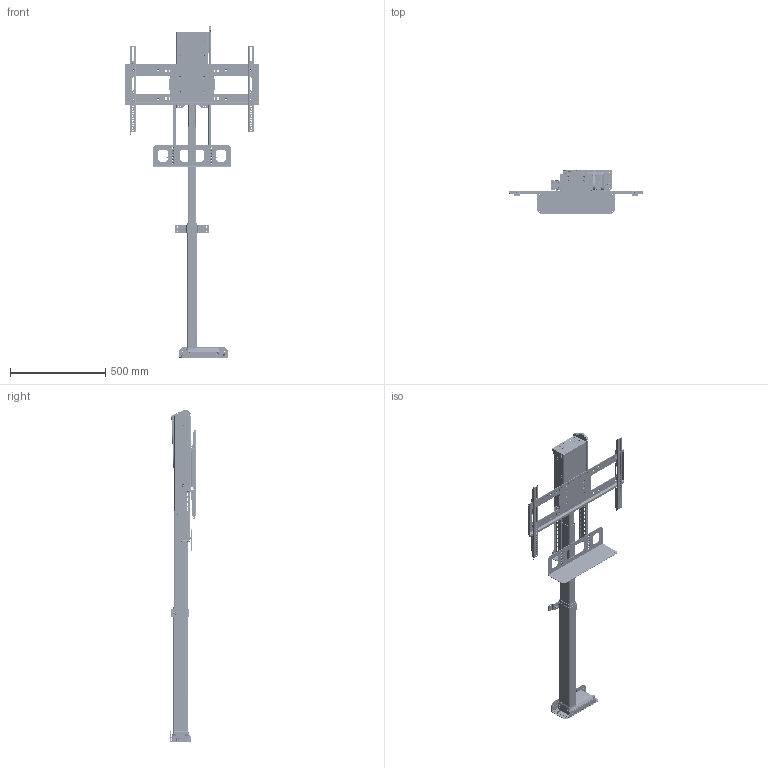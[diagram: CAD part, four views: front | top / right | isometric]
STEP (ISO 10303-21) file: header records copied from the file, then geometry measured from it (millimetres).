
FILE_DESCRIPTION(/* description */ ('STEP AP242','CAx-IF Rec.Pracs.---Representation and Presentation of Product Manufacturing Information (PMI)---4.0---2014-10-13','CAx-IF Rec.Pracs.---3D Tessellated Geometry---0.4---2014-09-14','2;1'),/* implementation_level */ '2;1');
FILE_NAME(/* name */ '63f8faa2155145463c3984d0',/* time_stamp */ '2023-02-24T17:57:59+00:00',/* author */ (''),/* organization */ (''),/* preprocessor_version */ 'ST-DEVELOPER v18.102',/* originating_system */ ' ',/* authorisation */ ' ');
FILE_SCHEMA (('AP242_MANAGED_MODEL_BASED_3D_ENGINEERING_MIM_LF { 1 0 10303 442 1 1 4 }'));
Products named in the file (48): L-65/s; Hex socket countersunk head screw M6x1 x 16; Hex socket countersunk head screw M6x1 x 12; Socket button head screw M6x1 x 12; Socket button head screw M6x1 x 8; ULS-NX-037 -- ULS HTG Adapter Plate; WDS8151-215; OLD_ULS-NX-024 - ULS Hinged Top Guide; ULS-NX-011 - ULS ACCESSORY MOUNTING BRACKET SPACER <2>; ULS-NX-011 - UL ACCESSORY MOUNTING BRACKET SPACER; PRODUCT_NAME_1; ULS Accessories <1>; 1/4in Spacer; ULS-NX-010 - ULS ACCESSORY MOUNTING BRACKET W PEMS <2>; PEM CLS-M6-2  ; ULS-NX-010 - UL ACCESSORY MOUNTING BRACKET; NEX-LM-013 - CENTER CHANNEL MOUNT - REV B; ULS-NX-010 - ULS ACCESSORY MOUNTING BRACKET W PEMS <1>; ULS-NX-108 - ULS SCREEN SUPPORT WELDMENT <1>; PEM CLS-M6-1  ; F-M6-3 M6 PEM NUT; ULS-NX-008 - UL SCREEN SUPPORT SHELL; ULS-NX-009 - ULS SCREEN SUPPORT TOP PLATE <1>; ULS-NX-009 - UL SCREEN SUPPORT TOP PLATE; SBP & VMB <1>; PZ Pan head screw M5x0.80 x 25; ULS-NX-017 - UL SCREEN BACK PLATE; ULS-NX-118 - UL VMB WELDMENT <2>; Socket button head cap screw #6-32 x 0.188; VMB Washer; ULS-NX-019 - UL LEVEL ADJUSTMENT PLATE; PEM BSO-632-10  ZI; 90107A012; ULS-NX-018 - UL VERICAL MOUNTING BAR; ULS-NX-020 - UL SCREEN LOCK; ULS-NX-118 - UL VMB WELDMENT <1>; L-65 Lower Sub Assembly <1>; ULS-NX-002 - ULS QUICK RELEASE LC MOUNT; ULS-NX-004 - ULS COLUMN CLAMP; ULS-NX-001 - ULS QUICK RELEASE BASE MOUNT W/ PEMS <1>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
Assembly tree (140 placements, depth 4):
  L-65/s
    Hex socket countersunk head screw M6x1 x 16  x4
    Hex socket countersunk head screw M6x1 x 12  x10
    Socket button head screw M6x1 x 12  x8
    Socket button head screw M6x1 x 8  x4
    ULS-NX-037 -- ULS HTG Adapter Plate
    WDS8151-215  x4
    OLD_ULS-NX-024 - ULS Hinged Top Guide
    ULS-NX-011 - ULS ACCESSORY MOUNTING BRACKET SPACER <2>
      ULS-NX-011 - UL ACCESSORY MOUNTING BRACKET SPACER
      PRODUCT_NAME_1  x2
    ULS Accessories <1>
      1/4in Spacer  x2
      ULS-NX-010 - ULS ACCESSORY MOUNTING BRACKET W PEMS <2>
        PEM CLS-M6-2    x4
        ULS-NX-010 - UL ACCESSORY MOUNTING BRACKET
      NEX-LM-013 - CENTER CHANNEL MOUNT - REV B
      ULS-NX-010 - ULS ACCESSORY MOUNTING BRACKET W PEMS <1>
        PEM CLS-M6-2    x4
        ULS-NX-010 - UL ACCESSORY MOUNTING BRACKET
    ULS-NX-108 - ULS SCREEN SUPPORT WELDMENT <1>
      PEM CLS-M6-1    x32
      F-M6-3 M6 PEM NUT
      ULS-NX-008 - UL SCREEN SUPPORT SHELL
      ULS-NX-009 - ULS SCREEN SUPPORT TOP PLATE <1>
        PEM CLS-M6-1    x4
        ULS-NX-009 - UL SCREEN SUPPORT TOP PLATE
    SBP & VMB <1>
      PZ Pan head screw M5x0.80 x 25  x2
      ULS-NX-017 - UL SCREEN BACK PLATE
      ULS-NX-118 - UL VMB WELDMENT <2>
        Socket button head cap screw #6-32 x 0.188  x2
        VMB Washer  x4
        ULS-NX-019 - UL LEVEL ADJUSTMENT PLATE
        PEM BSO-632-10  ZI  x2
        90107A012  x2
        ULS-NX-018 - UL VERICAL MOUNTING BAR
        ULS-NX-020 - UL SCREEN LOCK
      ULS-NX-118 - UL VMB WELDMENT <1>
        VMB Washer  x4
        Socket button head cap screw #6-32 x 0.188  x2
        PEM BSO-632-10  ZI  x2
        ULS-NX-020 - UL SCREEN LOCK
        ULS-NX-018 - UL VERICAL MOUNTING BAR
        90107A012  x2
        ULS-NX-019 - UL LEVEL ADJUSTMENT PLATE
    L-65 Lower Sub Assembly <1>
      ULS-NX-002 - ULS QUICK RELEASE LC MOUNT
      ULS-NX-004 - ULS COLUMN CLAMP
      ULS-NX-001 - ULS QUICK RELEASE BASE MOUNT W/ PEMS <1>
        PEM FHS-M6-12    x2
        ULS-NX-001 - ULS QUICK RELEASE BASE MOUNT
      ULS-NX-022 - ULS REAR SUPPORT <1>
        ULS-NX-022 - ULS REAR SUPPORT
        PEM FHS-M6-12    x2
      DL16XL_STANDART_ASM <1>
        L45 LC Inner Profile
        L45 LC Motor Housing
        L45 LC Middle Profile
Bounding box: 698.5 x 228.39 x 1741.98 mm (x, y, z)
Volume: 8711959.4 mm3; surface area: 1790503.3 mm2
Topology: 127 solids, 127 shells, 9760 faces, 26075 edges, 16902 vertices
Faces by surface type: plane 6853, cylinder 1694, cone 577, bspline 430, torus 176, sphere 30
Full cylindrical faces by diameter (mm): 2.642 x4, 3.505 x4, 4.6 x2, 4.917 x45, 4.978 x4, 5 x20, 5.026 x4, 5.08 x4, 5.277 x8, 5.3 x6, 5.385 x12, 5.41 x8, 5.486 x4, 5.499 x2, 5.6 x4, 5.613 x6, 5.944 x4, 5.994 x2, 6 x44, 6.095 x2, 6.35 x16, 6.401 x2, 6.528 x4, 6.6 x4, 6.604 x4, 6.655 x4, 6.976 x1, 7.112 x2, 7.19 x2, 7.62 x2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
Entity records: 97221 total; most frequent: CARTESIAN_POINT 18867, DIRECTION 15302, ORIENTED_EDGE 15022, EDGE_CURVE 7511, AXIS2_PLACEMENT_3D 5156, LINE 4990, VECTOR 4990, VERTEX_POINT 4982
